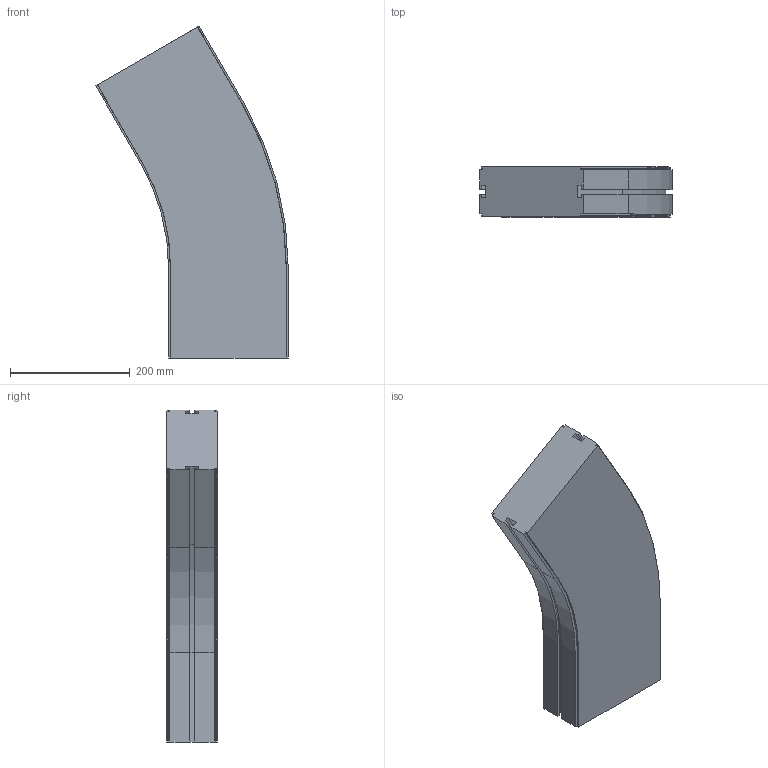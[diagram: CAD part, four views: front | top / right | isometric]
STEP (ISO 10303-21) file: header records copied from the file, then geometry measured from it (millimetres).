
FILE_DESCRIPTION (( 'STEP AP214' ), '1' );
FILE_NAME ('CS SL Horizontaalbocht.200 30° R450.STEP', '2017-02-08T07:35:40', ( '' ), ( '' ), 'SwSTEP 2.0', 'SolidWorks 2016', '' );
FILE_SCHEMA (( 'AUTOMOTIVE_DESIGN' ));
Length unit declared in the file: millimetre
Products named in the file (1): CS SL Horizontaalbocht.200 30° R450
Bounding box: 321.89 x 84 x 554.9 mm (x, y, z)
Volume: 8765214.1 mm3; surface area: 393715.2 mm2
Topology: 1 solids, 1 shells, 98 faces, 272 edges, 176 vertices
Faces by surface type: plane 72, cylinder 18, cone 8
Entity records: 3126 total; most frequent: CARTESIAN_POINT 547, ORIENTED_EDGE 544, DIRECTION 514, EDGE_CURVE 272, VECTOR 228, LINE 228, VERTEX_POINT 176, AXIS2_PLACEMENT_3D 143
